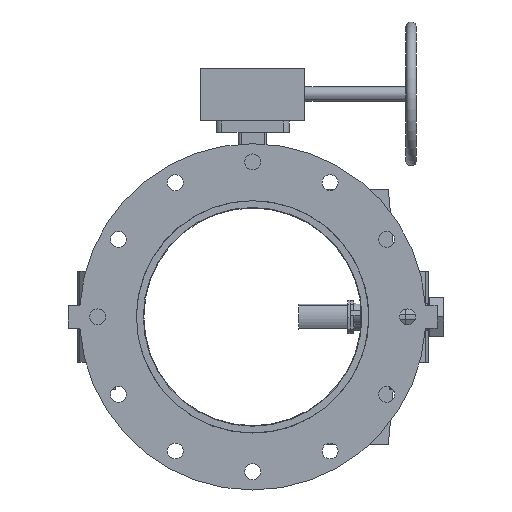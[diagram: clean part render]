
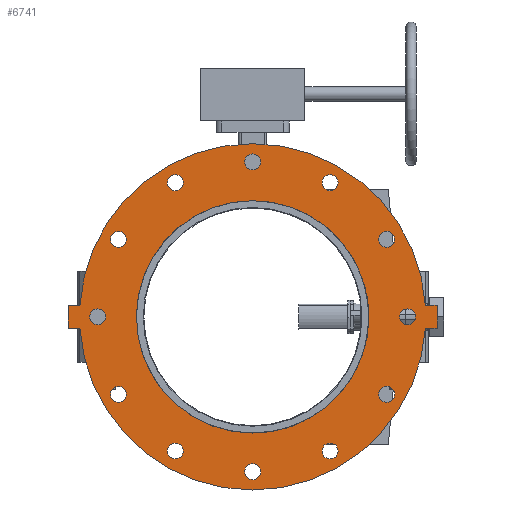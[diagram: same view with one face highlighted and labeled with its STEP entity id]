
A CAD part, front view. The second image highlights one B-rep face of the part: STEP entity #6741.
In plain terms, the highlighted planar face has unit normal (0, -1, 0) as drawn and (0, 0, -1) by its records, which use the part's own axes.
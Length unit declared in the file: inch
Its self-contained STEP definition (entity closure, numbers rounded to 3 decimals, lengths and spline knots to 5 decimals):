
#157=FACE_BOUND('',#873,.T.);
#158=FACE_BOUND('',#874,.T.);
#159=FACE_BOUND('',#875,.T.);
#160=FACE_BOUND('',#876,.T.);
#161=FACE_BOUND('',#877,.T.);
#162=FACE_BOUND('',#878,.T.);
#163=FACE_BOUND('',#879,.T.);
#164=FACE_BOUND('',#880,.T.);
#165=FACE_BOUND('',#881,.T.);
#166=FACE_BOUND('',#882,.T.);
#167=FACE_BOUND('',#883,.T.);
#168=FACE_BOUND('',#884,.T.);
#169=FACE_BOUND('',#885,.T.);
#254=PLANE('',#7323);
#498=FACE_OUTER_BOUND('',#872,.T.);
#872=EDGE_LOOP('',(#4371,#4372,#4373,#4374,#4375,#4376,#4377,#4378));
#873=EDGE_LOOP('',(#4379));
#874=EDGE_LOOP('',(#4380));
#875=EDGE_LOOP('',(#4381));
#876=EDGE_LOOP('',(#4382));
#877=EDGE_LOOP('',(#4383));
#878=EDGE_LOOP('',(#4384));
#879=EDGE_LOOP('',(#4385));
#880=EDGE_LOOP('',(#4386));
#881=EDGE_LOOP('',(#4387));
#882=EDGE_LOOP('',(#4388));
#883=EDGE_LOOP('',(#4389));
#884=EDGE_LOOP('',(#4390));
#885=EDGE_LOOP('',(#4391,#4392));
#1343=LINE('',#10201,#1852);
#1344=LINE('',#10203,#1853);
#1345=LINE('',#10205,#1854);
#1346=LINE('',#10209,#1855);
#1347=LINE('',#10211,#1856);
#1348=LINE('',#10212,#1857);
#1852=VECTOR('',#8153,0.3937);
#1853=VECTOR('',#8154,0.3937);
#1854=VECTOR('',#8155,0.3937);
#1855=VECTOR('',#8158,0.3937);
#1856=VECTOR('',#8159,0.3937);
#1857=VECTOR('',#8160,0.3937);
#2350=CIRCLE('',#7289,0.4375);
#2352=CIRCLE('',#7292,0.4375);
#2354=CIRCLE('',#7295,0.4375);
#2356=CIRCLE('',#7298,0.4375);
#2358=CIRCLE('',#7301,0.4375);
#2360=CIRCLE('',#7304,0.4375);
#2362=CIRCLE('',#7307,0.4375);
#2364=CIRCLE('',#7310,0.4375);
#2366=CIRCLE('',#7313,0.4375);
#2368=CIRCLE('',#7316,0.4375);
#2370=CIRCLE('',#7319,0.4375);
#2372=CIRCLE('',#7322,0.4375);
#2373=CIRCLE('',#7324,9.5);
#2374=CIRCLE('',#7325,9.5);
#2375=CIRCLE('',#7326,6.375);
#2376=CIRCLE('',#7327,6.375);
#2725=VERTEX_POINT('',#10127);
#2727=VERTEX_POINT('',#10133);
#2729=VERTEX_POINT('',#10139);
#2731=VERTEX_POINT('',#10145);
#2733=VERTEX_POINT('',#10151);
#2735=VERTEX_POINT('',#10157);
#2737=VERTEX_POINT('',#10163);
#2739=VERTEX_POINT('',#10169);
#2741=VERTEX_POINT('',#10175);
#2743=VERTEX_POINT('',#10181);
#2745=VERTEX_POINT('',#10187);
#2747=VERTEX_POINT('',#10193);
#2748=VERTEX_POINT('',#10197);
#2749=VERTEX_POINT('',#10198);
#2750=VERTEX_POINT('',#10200);
#2751=VERTEX_POINT('',#10202);
#2752=VERTEX_POINT('',#10204);
#2753=VERTEX_POINT('',#10206);
#2754=VERTEX_POINT('',#10208);
#2755=VERTEX_POINT('',#10210);
#2756=VERTEX_POINT('',#10213);
#2757=VERTEX_POINT('',#10214);
#3373=EDGE_CURVE('',#2725,#2725,#2350,.T.);
#3376=EDGE_CURVE('',#2727,#2727,#2352,.T.);
#3379=EDGE_CURVE('',#2729,#2729,#2354,.T.);
#3382=EDGE_CURVE('',#2731,#2731,#2356,.T.);
#3385=EDGE_CURVE('',#2733,#2733,#2358,.T.);
#3388=EDGE_CURVE('',#2735,#2735,#2360,.T.);
#3391=EDGE_CURVE('',#2737,#2737,#2362,.T.);
#3394=EDGE_CURVE('',#2739,#2739,#2364,.T.);
#3397=EDGE_CURVE('',#2741,#2741,#2366,.T.);
#3400=EDGE_CURVE('',#2743,#2743,#2368,.T.);
#3403=EDGE_CURVE('',#2745,#2745,#2370,.T.);
#3406=EDGE_CURVE('',#2747,#2747,#2372,.T.);
#3407=EDGE_CURVE('',#2748,#2749,#2373,.T.);
#3408=EDGE_CURVE('',#2749,#2750,#1343,.T.);
#3409=EDGE_CURVE('',#2750,#2751,#1344,.T.);
#3410=EDGE_CURVE('',#2751,#2752,#1345,.T.);
#3411=EDGE_CURVE('',#2752,#2753,#2374,.T.);
#3412=EDGE_CURVE('',#2753,#2754,#1346,.T.);
#3413=EDGE_CURVE('',#2754,#2755,#1347,.T.);
#3414=EDGE_CURVE('',#2755,#2748,#1348,.T.);
#3415=EDGE_CURVE('',#2756,#2757,#2375,.T.);
#3416=EDGE_CURVE('',#2757,#2756,#2376,.T.);
#4371=ORIENTED_EDGE('',*,*,#3407,.T.);
#4372=ORIENTED_EDGE('',*,*,#3408,.T.);
#4373=ORIENTED_EDGE('',*,*,#3409,.T.);
#4374=ORIENTED_EDGE('',*,*,#3410,.T.);
#4375=ORIENTED_EDGE('',*,*,#3411,.T.);
#4376=ORIENTED_EDGE('',*,*,#3412,.T.);
#4377=ORIENTED_EDGE('',*,*,#3413,.T.);
#4378=ORIENTED_EDGE('',*,*,#3414,.T.);
#4379=ORIENTED_EDGE('',*,*,#3373,.T.);
#4380=ORIENTED_EDGE('',*,*,#3376,.T.);
#4381=ORIENTED_EDGE('',*,*,#3379,.T.);
#4382=ORIENTED_EDGE('',*,*,#3382,.T.);
#4383=ORIENTED_EDGE('',*,*,#3385,.T.);
#4384=ORIENTED_EDGE('',*,*,#3388,.T.);
#4385=ORIENTED_EDGE('',*,*,#3391,.T.);
#4386=ORIENTED_EDGE('',*,*,#3394,.T.);
#4387=ORIENTED_EDGE('',*,*,#3397,.T.);
#4388=ORIENTED_EDGE('',*,*,#3400,.T.);
#4389=ORIENTED_EDGE('',*,*,#3403,.T.);
#4390=ORIENTED_EDGE('',*,*,#3406,.T.);
#4391=ORIENTED_EDGE('',*,*,#3415,.T.);
#4392=ORIENTED_EDGE('',*,*,#3416,.T.);
#6741=ADVANCED_FACE('',(#498,#157,#158,#159,#160,#161,#162,#163,#164,#165,
#166,#167,#168,#169),#254,.T.);
#7289=AXIS2_PLACEMENT_3D('',#10129,#8070,#8071);
#7292=AXIS2_PLACEMENT_3D('',#10135,#8077,#8078);
#7295=AXIS2_PLACEMENT_3D('',#10141,#8084,#8085);
#7298=AXIS2_PLACEMENT_3D('',#10147,#8091,#8092);
#7301=AXIS2_PLACEMENT_3D('',#10153,#8098,#8099);
#7304=AXIS2_PLACEMENT_3D('',#10159,#8105,#8106);
#7307=AXIS2_PLACEMENT_3D('',#10165,#8112,#8113);
#7310=AXIS2_PLACEMENT_3D('',#10171,#8119,#8120);
#7313=AXIS2_PLACEMENT_3D('',#10177,#8126,#8127);
#7316=AXIS2_PLACEMENT_3D('',#10183,#8133,#8134);
#7319=AXIS2_PLACEMENT_3D('',#10189,#8140,#8141);
#7322=AXIS2_PLACEMENT_3D('',#10195,#8147,#8148);
#7323=AXIS2_PLACEMENT_3D('',#10196,#8149,#8150);
#7324=AXIS2_PLACEMENT_3D('',#10199,#8151,#8152);
#7325=AXIS2_PLACEMENT_3D('',#10207,#8156,#8157);
#7326=AXIS2_PLACEMENT_3D('',#10215,#8161,#8162);
#7327=AXIS2_PLACEMENT_3D('',#10216,#8163,#8164);
#8070=DIRECTION('center_axis',(0.,0.,1.));
#8071=DIRECTION('ref_axis',(-0.866,0.5,0.));
#8077=DIRECTION('center_axis',(0.,0.,1.));
#8078=DIRECTION('ref_axis',(-0.5,0.866,0.));
#8084=DIRECTION('center_axis',(0.,0.,1.));
#8085=DIRECTION('ref_axis',(0.,1.,0.));
#8091=DIRECTION('center_axis',(0.,0.,1.));
#8092=DIRECTION('ref_axis',(0.5,0.866,0.));
#8098=DIRECTION('center_axis',(0.,0.,1.));
#8099=DIRECTION('ref_axis',(0.866,0.5,0.));
#8105=DIRECTION('center_axis',(0.,0.,1.));
#8106=DIRECTION('ref_axis',(1.,0.,0.));
#8112=DIRECTION('center_axis',(0.,0.,1.));
#8113=DIRECTION('ref_axis',(0.866,-0.5,0.));
#8119=DIRECTION('center_axis',(0.,0.,1.));
#8120=DIRECTION('ref_axis',(0.5,-0.866,0.));
#8126=DIRECTION('center_axis',(0.,0.,1.));
#8127=DIRECTION('ref_axis',(0.,-1.,0.));
#8133=DIRECTION('center_axis',(0.,0.,1.));
#8134=DIRECTION('ref_axis',(-0.5,-0.866,0.));
#8140=DIRECTION('center_axis',(0.,0.,1.));
#8141=DIRECTION('ref_axis',(-0.866,-0.5,0.));
#8147=DIRECTION('center_axis',(0.,0.,1.));
#8148=DIRECTION('ref_axis',(-1.,0.,0.));
#8149=DIRECTION('center_axis',(0.,0.,-1.));
#8150=DIRECTION('ref_axis',(-1.,0.,0.));
#8151=DIRECTION('center_axis',(0.,0.,-1.));
#8152=DIRECTION('ref_axis',(-1.,0.,0.));
#8153=DIRECTION('',(0.,1.,0.));
#8154=DIRECTION('',(1.,0.,0.));
#8155=DIRECTION('',(0.,-1.,0.));
#8156=DIRECTION('center_axis',(0.,0.,-1.));
#8157=DIRECTION('ref_axis',(-1.,0.,0.));
#8158=DIRECTION('',(0.,-1.,0.));
#8159=DIRECTION('',(-1.,0.,0.));
#8160=DIRECTION('',(0.,1.,0.));
#8161=DIRECTION('center_axis',(0.,0.,1.));
#8162=DIRECTION('ref_axis',(-1.,0.,0.));
#8163=DIRECTION('center_axis',(0.,0.,1.));
#8164=DIRECTION('ref_axis',(-1.,0.,0.));
#10127=CARTESIAN_POINT('',(-6.98233,4.03125,-0.625));
#10129=CARTESIAN_POINT('Origin',(-7.36122,4.25,-0.625));
#10133=CARTESIAN_POINT('',(-4.03125,6.98233,-0.625));
#10135=CARTESIAN_POINT('Origin',(-4.25,7.36122,-0.625));
#10139=CARTESIAN_POINT('',(0.,8.0625,-0.625));
#10141=CARTESIAN_POINT('Origin',(0.,8.5,-0.625));
#10145=CARTESIAN_POINT('',(4.03125,6.98233,-0.625));
#10147=CARTESIAN_POINT('Origin',(4.25,7.36122,-0.625));
#10151=CARTESIAN_POINT('',(6.98233,4.03125,-0.625));
#10153=CARTESIAN_POINT('Origin',(7.36122,4.25,-0.625));
#10157=CARTESIAN_POINT('',(8.0625,0.,-0.625));
#10159=CARTESIAN_POINT('Origin',(8.5,0.,-0.625));
#10163=CARTESIAN_POINT('',(6.98233,-4.03125,-0.625));
#10165=CARTESIAN_POINT('Origin',(7.36122,-4.25,-0.625));
#10169=CARTESIAN_POINT('',(4.03125,-6.98233,-0.625));
#10171=CARTESIAN_POINT('Origin',(4.25,-7.36122,-0.625));
#10175=CARTESIAN_POINT('',(0.,-8.0625,-0.625));
#10177=CARTESIAN_POINT('Origin',(0.,-8.5,-0.625));
#10181=CARTESIAN_POINT('',(-4.03125,-6.98233,-0.625));
#10183=CARTESIAN_POINT('Origin',(-4.25,-7.36122,-0.625));
#10187=CARTESIAN_POINT('',(-6.98233,-4.03125,-0.625));
#10189=CARTESIAN_POINT('Origin',(-7.36122,-4.25,-0.625));
#10193=CARTESIAN_POINT('',(-8.0625,0.,-0.625));
#10195=CARTESIAN_POINT('Origin',(-8.5,0.,-0.625));
#10196=CARTESIAN_POINT('Origin',(0.,0.,-0.625));
#10197=CARTESIAN_POINT('',(-0.625,-9.47942,-0.625));
#10198=CARTESIAN_POINT('',(-0.625,9.47942,-0.625));
#10199=CARTESIAN_POINT('Origin',(0.,0.,-0.625));
#10200=CARTESIAN_POINT('',(-0.625,10.125,-0.625));
#10201=CARTESIAN_POINT('',(-0.625,-10.125,-0.625));
#10202=CARTESIAN_POINT('',(0.625,10.125,-0.625));
#10203=CARTESIAN_POINT('',(-0.625,10.125,-0.625));
#10204=CARTESIAN_POINT('',(0.625,9.47942,-0.625));
#10205=CARTESIAN_POINT('',(0.625,10.125,-0.625));
#10206=CARTESIAN_POINT('',(0.625,-9.47942,-0.625));
#10207=CARTESIAN_POINT('Origin',(0.,0.,-0.625));
#10208=CARTESIAN_POINT('',(0.625,-10.125,-0.625));
#10209=CARTESIAN_POINT('',(0.625,10.125,-0.625));
#10210=CARTESIAN_POINT('',(-0.625,-10.125,-0.625));
#10211=CARTESIAN_POINT('',(0.625,-10.125,-0.625));
#10212=CARTESIAN_POINT('',(-0.625,-10.125,-0.625));
#10213=CARTESIAN_POINT('',(0.625,6.34429,-0.625));
#10214=CARTESIAN_POINT('',(6.375,0.,-0.625));
#10215=CARTESIAN_POINT('Origin',(0.,0.,-0.625));
#10216=CARTESIAN_POINT('Origin',(0.,0.,-0.625));
